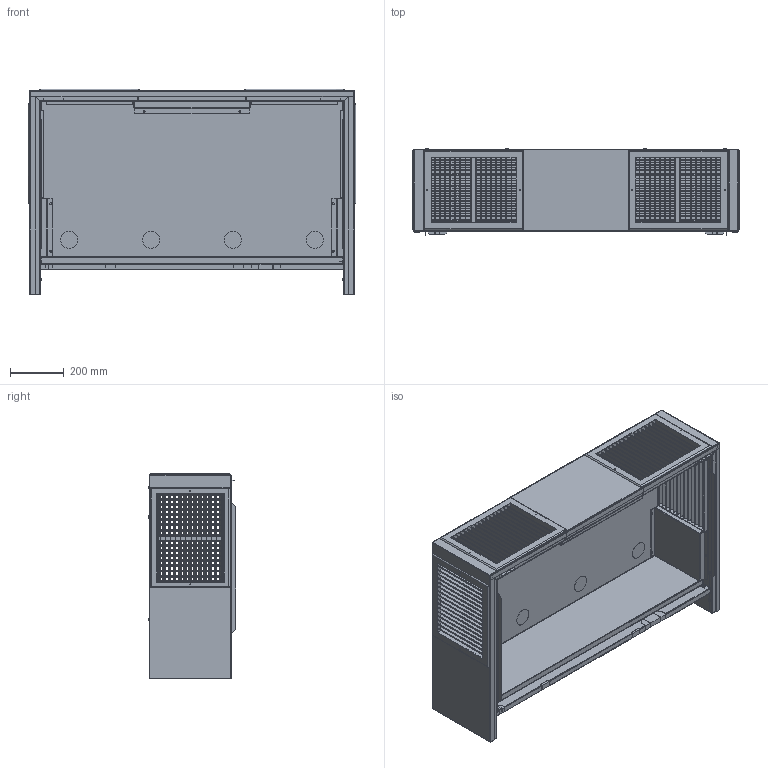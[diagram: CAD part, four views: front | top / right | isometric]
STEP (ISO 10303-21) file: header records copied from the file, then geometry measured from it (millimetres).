
FILE_DESCRIPTION (( 'STEP AP214' ), '1' );
FILE_NAME ('IPBDF12 PLENUM BOX WITH 4 WAY DEFLECT.STEP', '2016-07-14T15:26:28', ( 'BMC' ), ( 'Bard Manufacturing Co., Inc.' ), 'SwSTEP 2.0', 'SolidWorks 2016', '' );
FILE_SCHEMA (( 'AUTOMOTIVE_DESIGN' ));
Length unit declared in the file: inch
Products named in the file (25): 1012-086; 134-327; 136-659; 134-326; 106-305; 535-322; 5021-1724; IPBDF12 PLENUM BOX WITH 4 WAY DEFLECT; 134-322; 549-130; Part2^549-130; 148-130; 515-210; Part1^515-210; 114-210; 108-265; large grille; small louver; large louver; FRAME; 5021-1719; 112-450; Part4^12 in top plenum box; 2010-001-713; Part3^12 in top plenum box
Assembly tree (72 placements, depth 3):
  IPBDF12 PLENUM BOX WITH 4 WAY DEFLECT
    106-305
    136-659  x2
    1012-086  x13
    2010-001-713  x2
    112-450  x2
    5021-1719
    large grille  x4
      FRAME
      large louver
      small louver
    108-265
    515-210
      114-210
      Part1^515-210
    549-130
      148-130
      Part2^549-130
    535-322
      134-322
      5021-1724
    134-326
    134-327  x2
    148-130
    Part3^12 in top plenum box
    Part4^12 in top plenum box  x2
Bounding box: 1219.31 x 326.06 x 764.38 mm (x, y, z)
Surface area: 11067119.5 mm2 (no closed solid volume)
Topology: 0 solids, 155 shells, 2904 faces, 7430 edges, 4853 vertices
Faces by surface type: plane 1647, cylinder 1195, bspline 36, cone 26
Entity records: 31962 total; most frequent: CARTESIAN_POINT 7189, DIRECTION 5086, ORIENTED_EDGE 4800, EDGE_CURVE 2400, AXIS2_PLACEMENT_3D 1784, VERTEX_POINT 1545, LINE 1518, VECTOR 1518
